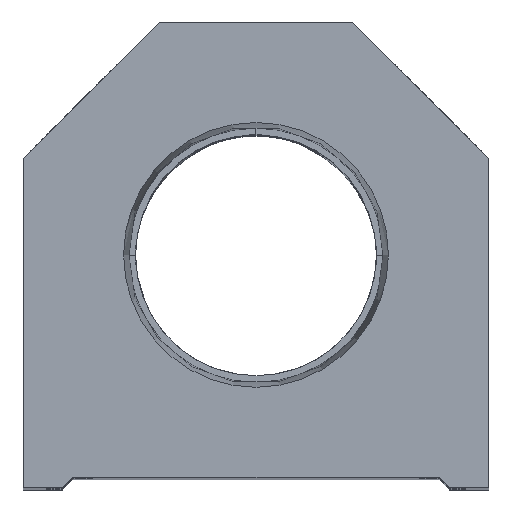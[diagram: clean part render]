
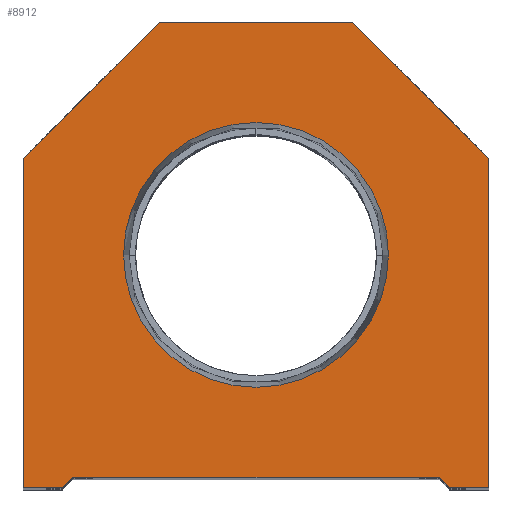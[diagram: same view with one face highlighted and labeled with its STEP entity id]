
A CAD part, top view. The second image highlights one B-rep face of the part: STEP entity #8912.
In plain terms, the highlighted planar face has unit normal (0, 0, 1).
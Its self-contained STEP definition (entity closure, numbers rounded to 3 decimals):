
#63 = DIRECTION ( 'NONE',  ( 1., 0., 0. ) ) ;
#164 = DIRECTION ( 'NONE',  ( 1., 0., 0. ) ) ;
#379 = CARTESIAN_POINT ( 'NONE',  ( -22.25, 31.5, 0. ) ) ;
#449 = EDGE_LOOP ( 'NONE', ( #4436, #9545, #3948, #16071, #2156, #8633, #15443, #15139, #719, #8530 ) ) ;
#532 = EDGE_CURVE ( 'NONE', #4263, #8796, #7711, .T. ) ;
#719 = ORIENTED_EDGE ( 'NONE', *, *, #12102, .T. ) ;
#1003 = EDGE_CURVE ( 'NONE', #11943, #16371, #7645, .T. ) ;
#1083 = EDGE_CURVE ( 'NONE', #8796, #4263, #7094, .T. ) ;
#1128 = CARTESIAN_POINT ( 'NONE',  ( 17.5, 1., 0. ) ) ;
#1239 = VERTEX_POINT ( 'NONE', #12533 ) ;
#1582 = DIRECTION ( 'NONE',  ( 0.707, -0.707, 0. ) ) ;
#2094 = EDGE_CURVE ( 'NONE', #1239, #14824, #16938, .T. ) ;
#2156 = ORIENTED_EDGE ( 'NONE', *, *, #2094, .T. ) ;
#2541 = CARTESIAN_POINT ( 'NONE',  ( 22.25, 0., 0. ) ) ;
#2959 = CARTESIAN_POINT ( 'NONE',  ( 9.25, 44.5, 0. ) ) ;
#3343 = DIRECTION ( 'NONE',  ( -0.707, -0.707, 0. ) ) ;
#3589 = AXIS2_PLACEMENT_3D ( 'NONE', #16952, #9760, #164 ) ;
#3685 = VERTEX_POINT ( 'NONE', #10208 ) ;
#3948 = ORIENTED_EDGE ( 'NONE', *, *, #8151, .T. ) ;
#3967 = CARTESIAN_POINT ( 'NONE',  ( -22.25, 0., 0. ) ) ;
#4263 = VERTEX_POINT ( 'NONE', #8098 ) ;
#4275 = CARTESIAN_POINT ( 'NONE',  ( -22.25, 31.5, 0. ) ) ;
#4312 = DIRECTION ( 'NONE',  ( 1., 0., 0. ) ) ;
#4436 = ORIENTED_EDGE ( 'NONE', *, *, #17647, .T. ) ;
#4523 = CARTESIAN_POINT ( 'NONE',  ( 22.25, 31.5, 0. ) ) ;
#4792 = EDGE_CURVE ( 'NONE', #14824, #5195, #15074, .T. ) ;
#4997 = DIRECTION ( 'NONE',  ( -0.707, 0.707, 0. ) ) ;
#5195 = VERTEX_POINT ( 'NONE', #4523 ) ;
#5731 = VECTOR ( 'NONE', #17225, 1000. ) ;
#6628 = DIRECTION ( 'NONE',  ( 0., 0., 1. ) ) ;
#6953 = DIRECTION ( 'NONE',  ( -1., 0., 0. ) ) ;
#6969 = CARTESIAN_POINT ( 'NONE',  ( 17.5, 0., 0. ) ) ;
#7094 = CIRCLE ( 'NONE', #17403, 12.647 ) ;
#7291 = LINE ( 'NONE', #379, #14462 ) ;
#7630 = LINE ( 'NONE', #10515, #5731 ) ;
#7645 = LINE ( 'NONE', #13484, #12433 ) ;
#7711 = CIRCLE ( 'NONE', #10701, 12.647 ) ;
#7727 = VECTOR ( 'NONE', #63, 1000. ) ;
#8098 = CARTESIAN_POINT ( 'NONE',  ( -12.647, 22.25, 0. ) ) ;
#8151 = EDGE_CURVE ( 'NONE', #13344, #12773, #16322, .T. ) ;
#8184 = CARTESIAN_POINT ( 'NONE',  ( 0., 22.25, 0. ) ) ;
#8380 = FACE_BOUND ( 'NONE', #18141, .T. ) ;
#8530 = ORIENTED_EDGE ( 'NONE', *, *, #1003, .T. ) ;
#8535 = VECTOR ( 'NONE', #17415, 1000. ) ;
#8633 = ORIENTED_EDGE ( 'NONE', *, *, #4792, .T. ) ;
#8796 = VERTEX_POINT ( 'NONE', #16146 ) ;
#8912 = ADVANCED_FACE ( 'NONE', ( #8380, #15768 ), #12826, .T. ) ;
#9267 = ORIENTED_EDGE ( 'NONE', *, *, #532, .F. ) ;
#9319 = LINE ( 'NONE', #9485, #15629 ) ;
#9361 = VERTEX_POINT ( 'NONE', #15427 ) ;
#9485 = CARTESIAN_POINT ( 'NONE',  ( 22.25, 31.5, 0. ) ) ;
#9528 = EDGE_CURVE ( 'NONE', #12773, #1239, #14230, .T. ) ;
#9545 = ORIENTED_EDGE ( 'NONE', *, *, #11206, .T. ) ;
#9630 = VECTOR ( 'NONE', #1582, 1000. ) ;
#9760 = DIRECTION ( 'NONE',  ( 0., 0., 1. ) ) ;
#10208 = CARTESIAN_POINT ( 'NONE',  ( -9.25, 44.5, 0. ) ) ;
#10323 = CARTESIAN_POINT ( 'NONE',  ( -17.5, 1., 0. ) ) ;
#10515 = CARTESIAN_POINT ( 'NONE',  ( -17.5, 0., 0. ) ) ;
#10701 = AXIS2_PLACEMENT_3D ( 'NONE', #14083, #12615, #4312 ) ;
#10993 = CARTESIAN_POINT ( 'NONE',  ( 22.25, 0., 0. ) ) ;
#11206 = EDGE_CURVE ( 'NONE', #9361, #13344, #16175, .T. ) ;
#11916 = VERTEX_POINT ( 'NONE', #2959 ) ;
#11941 = ORIENTED_EDGE ( 'NONE', *, *, #1083, .F. ) ;
#11943 = VERTEX_POINT ( 'NONE', #4275 ) ;
#11953 = CARTESIAN_POINT ( 'NONE',  ( -9.25, 9.25, 0. ) ) ;
#12102 = EDGE_CURVE ( 'NONE', #3685, #11943, #7291, .T. ) ;
#12287 = DIRECTION ( 'NONE',  ( 1., 0., 0. ) ) ;
#12433 = VECTOR ( 'NONE', #16054, 1000. ) ;
#12533 = CARTESIAN_POINT ( 'NONE',  ( 18.5, 0., 0. ) ) ;
#12615 = DIRECTION ( 'NONE',  ( 0., 0., 1. ) ) ;
#12773 = VERTEX_POINT ( 'NONE', #1128 ) ;
#12826 = PLANE ( 'NONE',  #3589 ) ;
#12877 = VECTOR ( 'NONE', #18063, 1000. ) ;
#13141 = EDGE_CURVE ( 'NONE', #5195, #11916, #9319, .T. ) ;
#13344 = VERTEX_POINT ( 'NONE', #10323 ) ;
#13484 = CARTESIAN_POINT ( 'NONE',  ( -22.25, 0., 0. ) ) ;
#13567 = CARTESIAN_POINT ( 'NONE',  ( -17.5, 1., 0. ) ) ;
#14083 = CARTESIAN_POINT ( 'NONE',  ( 0., 22.25, 0. ) ) ;
#14230 = LINE ( 'NONE', #16977, #9630 ) ;
#14462 = VECTOR ( 'NONE', #3343, 1000. ) ;
#14824 = VERTEX_POINT ( 'NONE', #2541 ) ;
#14912 = EDGE_CURVE ( 'NONE', #11916, #3685, #16826, .T. ) ;
#15074 = LINE ( 'NONE', #10993, #12877 ) ;
#15139 = ORIENTED_EDGE ( 'NONE', *, *, #14912, .T. ) ;
#15427 = CARTESIAN_POINT ( 'NONE',  ( -18.5, 0., 0. ) ) ;
#15443 = ORIENTED_EDGE ( 'NONE', *, *, #13141, .T. ) ;
#15590 = VECTOR ( 'NONE', #17728, 1000. ) ;
#15629 = VECTOR ( 'NONE', #4997, 1000. ) ;
#15768 = FACE_OUTER_BOUND ( 'NONE', #449, .T. ) ;
#16054 = DIRECTION ( 'NONE',  ( 0., -1., 0. ) ) ;
#16071 = ORIENTED_EDGE ( 'NONE', *, *, #9528, .T. ) ;
#16146 = CARTESIAN_POINT ( 'NONE',  ( 12.647, 22.25, 0. ) ) ;
#16175 = LINE ( 'NONE', #11953, #15590 ) ;
#16322 = LINE ( 'NONE', #13567, #8535 ) ;
#16371 = VERTEX_POINT ( 'NONE', #3967 ) ;
#16826 = LINE ( 'NONE', #18099, #18005 ) ;
#16938 = LINE ( 'NONE', #6969, #7727 ) ;
#16952 = CARTESIAN_POINT ( 'NONE',  ( 0., 0., 0. ) ) ;
#16977 = CARTESIAN_POINT ( 'NONE',  ( 9.25, 9.25, 0. ) ) ;
#17225 = DIRECTION ( 'NONE',  ( 1., 0., 0. ) ) ;
#17403 = AXIS2_PLACEMENT_3D ( 'NONE', #8184, #6628, #12287 ) ;
#17415 = DIRECTION ( 'NONE',  ( 1., 0., 0. ) ) ;
#17647 = EDGE_CURVE ( 'NONE', #16371, #9361, #7630, .T. ) ;
#17728 = DIRECTION ( 'NONE',  ( 0.707, 0.707, 0. ) ) ;
#18005 = VECTOR ( 'NONE', #6953, 1000. ) ;
#18063 = DIRECTION ( 'NONE',  ( 0., 1., 0. ) ) ;
#18099 = CARTESIAN_POINT ( 'NONE',  ( 9.25, 44.5, 0. ) ) ;
#18141 = EDGE_LOOP ( 'NONE', ( #11941, #9267 ) ) ;
